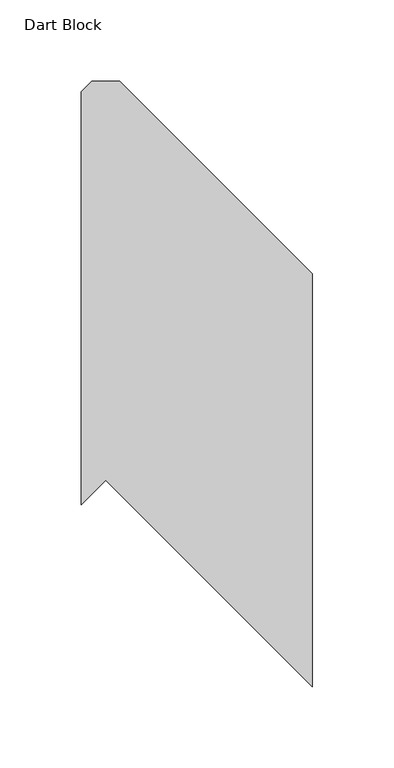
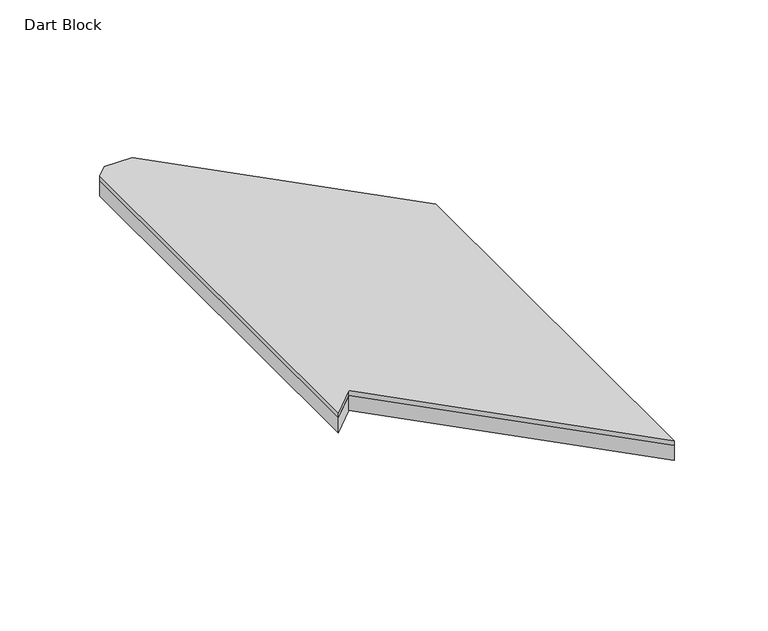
"""IFC4 building model written with IfcOpenShell, lengths in millimetres: proxy geometry, FilzFelt_Dart_Block : Dart Block."""

from ifc_helpers import new_model, si_unit, frame, origin, origin_with_axes, place, context, project, spatial, polyline, outline, extrude, source, transform, mapped, element, save


def dart_block_5830dce5(model_context):
    return source(origin(), model_context, "Body", "SweptSolid", [
        extrude(outline(polyline([(127.0, 63.5), (127.0, -190.5), (0.0, -63.5), (-15.0561328, -78.5561328), (-15.0561328, 175.4438672), (-8.5916122, 181.9083878), (8.5916122, 181.9083878), (127.0, 63.5)])), frame((0.0, 0.0, 10.0210937), z_axis=(0.0, 0.0, 1.0), x_axis=(1.0, 0.0, 0.0)), (0.0, 0.0, 1.0), 2.9765625),
        extrude(outline(polyline([(127.0, -190.5), (0.0, -63.5), (-15.0561328, -78.5561328), (-15.0561328, 175.4438672), (-8.5916122, 181.9083878), (8.5916122, 181.9083878), (127.0, 63.5), (127.0, -190.5)])), origin_with_axes(), (0.0, 0.0, 1.0), 10.0210938),
    ])


if __name__ == "__main__":
    model = new_model("IFC4")
    model_context = context("Model", 3, world=origin())
    ifc_project = project(units=[si_unit("LENGTHUNIT", "METRE", prefix="MILLI")], contexts=[model_context])
    site = spatial("IfcSite", under=ifc_project)
    building = spatial("IfcBuilding", under=site)
    placement = place(None, origin())
    dart_block_shape = dart_block_5830dce5(model_context)
    element("IfcBuildingElementProxy", 1, Name="FilzFelt_Dart_Block : Dart Block", ObjectType="FilzFelt_Dart_Block : Dart Block", at=placement, inside=building, context=model_context, shape_type="MappedRepresentation", body=[
        mapped(dart_block_shape, transform((0.0, 0.0, 0.0), x_axis=(1.0, 0.0, 0.0), y_axis=(0.0, 1.0, 0.0), z_axis=(0.0, 0.0, 1.0))),
    ])
    save(model, "model.ifc")
